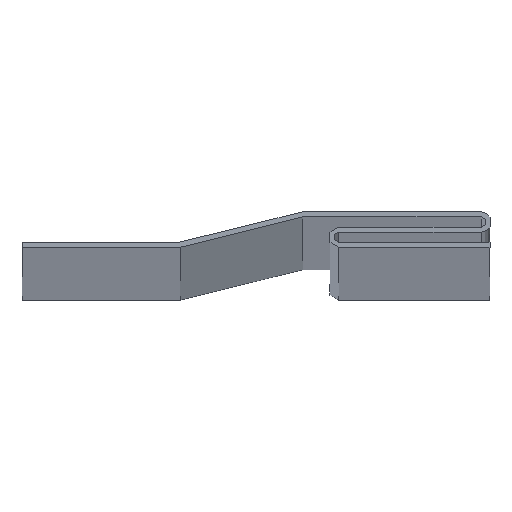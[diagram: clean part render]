
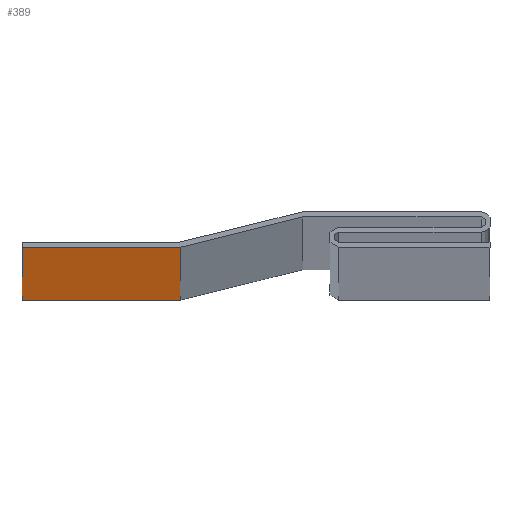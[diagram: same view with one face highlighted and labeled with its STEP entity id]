
A CAD part, top view. The second image highlights one B-rep face of the part: STEP entity #389.
In plain terms, the highlighted planar face has unit normal (0, -1, 0).
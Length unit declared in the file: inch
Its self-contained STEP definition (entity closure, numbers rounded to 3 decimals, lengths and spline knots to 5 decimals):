
#48=FACE_OUTER_BOUND('',#68,.T.);
#68=EDGE_LOOP('',(#348,#349,#350,#351));
#86=LINE('',#591,#130);
#96=LINE('',#621,#140);
#112=LINE('',#656,#156);
#113=LINE('',#658,#157);
#130=VECTOR('',#475,0.3937);
#140=VECTOR('',#499,0.3937);
#156=VECTOR('',#543,0.3937);
#157=VECTOR('',#546,0.3937);
#174=VERTEX_POINT('',#588);
#175=VERTEX_POINT('',#590);
#187=VERTEX_POINT('',#618);
#188=VERTEX_POINT('',#620);
#213=EDGE_CURVE('',#174,#175,#86,.T.);
#228=EDGE_CURVE('',#188,#187,#96,.T.);
#246=EDGE_CURVE('',#187,#175,#112,.T.);
#247=EDGE_CURVE('',#188,#174,#113,.T.);
#348=ORIENTED_EDGE('',*,*,#228,.T.);
#349=ORIENTED_EDGE('',*,*,#246,.T.);
#350=ORIENTED_EDGE('',*,*,#213,.F.);
#351=ORIENTED_EDGE('',*,*,#247,.F.);
#369=PLANE('',#441);
#389=ADVANCED_FACE('',(#48),#369,.T.);
#441=AXIS2_PLACEMENT_3D('',#657,#544,#545);
#475=DIRECTION('',(1.,0.,0.));
#499=DIRECTION('',(1.,0.,0.));
#543=DIRECTION('',(0.,0.,1.));
#544=DIRECTION('center_axis',(0.,-1.,0.));
#545=DIRECTION('ref_axis',(1.,0.,0.));
#546=DIRECTION('',(0.,0.,1.));
#588=CARTESIAN_POINT('',(-14.52523,0.,120.));
#590=CARTESIAN_POINT('',(-13.89779,0.,120.));
#591=CARTESIAN_POINT('',(-14.52523,0.,120.));
#618=CARTESIAN_POINT('',(-13.89779,0.,0.));
#620=CARTESIAN_POINT('',(-14.52523,0.,0.));
#621=CARTESIAN_POINT('',(-14.52523,0.,0.));
#656=CARTESIAN_POINT('',(-13.89779,0.,0.));
#657=CARTESIAN_POINT('Origin',(-14.52523,0.,0.));
#658=CARTESIAN_POINT('',(-14.52523,0.,0.));
